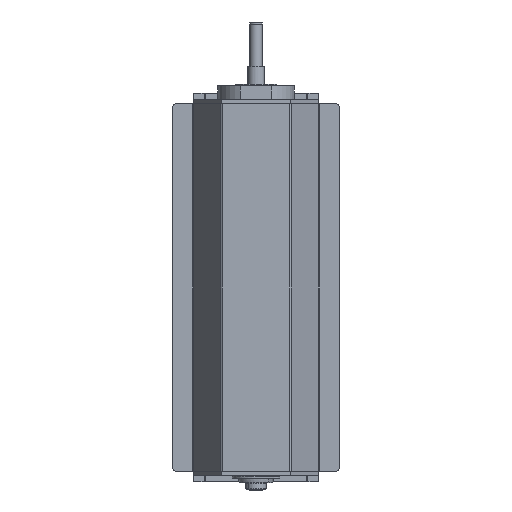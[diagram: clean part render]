
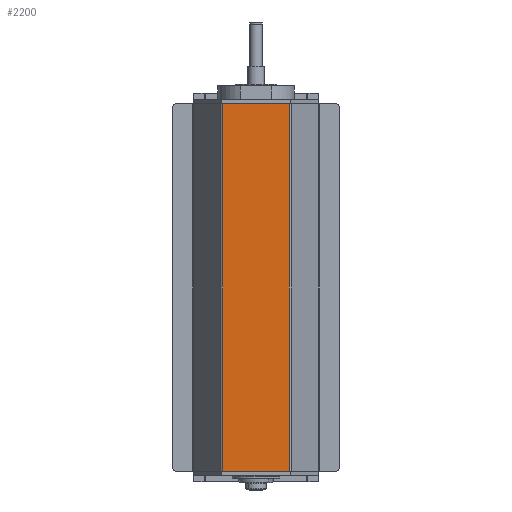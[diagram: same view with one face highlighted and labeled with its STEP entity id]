
A CAD part, front view. The second image highlights one B-rep face of the part: STEP entity #2200.
In plain terms, the highlighted planar face has unit normal (0, -1, 0).
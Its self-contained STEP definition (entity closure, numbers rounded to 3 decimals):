
#1152 = DIRECTION ( 'NONE',  ( -1., 0., 0. ) ) ;
#1249 = DIRECTION ( 'NONE',  ( 0., 1., 0. ) ) ;
#1371 = VECTOR ( 'NONE', #1152, 1000. ) ;
#1614 = CARTESIAN_POINT ( 'NONE',  ( 48.268, 0., -265.5 ) ) ;
#1652 = VECTOR ( 'NONE', #19371, 1000. ) ;
#1797 = FACE_OUTER_BOUND ( 'NONE', #12737, .T. ) ;
#1828 = DIRECTION ( 'NONE',  ( 0., 0., -1. ) ) ;
#2200 = ADVANCED_FACE ( 'NONE', ( #1797 ), #2625, .F. ) ;
#2559 = ORIENTED_EDGE ( 'NONE', *, *, #12803, .T. ) ;
#2625 = PLANE ( 'NONE',  #6814 ) ;
#3284 = ORIENTED_EDGE ( 'NONE', *, *, #11191, .T. ) ;
#3681 = VERTEX_POINT ( 'NONE', #12483 ) ;
#3829 = CARTESIAN_POINT ( 'NONE',  ( -50., 0., 265.5 ) ) ;
#4420 = VERTEX_POINT ( 'NONE', #12834 ) ;
#6033 = DIRECTION ( 'NONE',  ( -1., 0., 0. ) ) ;
#6653 = VECTOR ( 'NONE', #1828, 1000. ) ;
#6804 = VERTEX_POINT ( 'NONE', #11019 ) ;
#6814 = AXIS2_PLACEMENT_3D ( 'NONE', #10823, #1249, #6033 ) ;
#6922 = CARTESIAN_POINT ( 'NONE',  ( 48.268, 0., 554.779 ) ) ;
#8235 = DIRECTION ( 'NONE',  ( 0., 0., -1. ) ) ;
#8618 = LINE ( 'NONE', #6922, #16344 ) ;
#9415 = VERTEX_POINT ( 'NONE', #1614 ) ;
#10014 = EDGE_CURVE ( 'NONE', #4420, #9415, #14343, .T. ) ;
#10823 = CARTESIAN_POINT ( 'NONE',  ( -50., 0., 554.779 ) ) ;
#11019 = CARTESIAN_POINT ( 'NONE',  ( -48.268, 0., 265.5 ) ) ;
#11191 = EDGE_CURVE ( 'NONE', #3681, #6804, #17544, .T. ) ;
#11264 = CARTESIAN_POINT ( 'NONE',  ( -48.268, 0., 554.779 ) ) ;
#12483 = CARTESIAN_POINT ( 'NONE',  ( 48.268, 0., 265.5 ) ) ;
#12737 = EDGE_LOOP ( 'NONE', ( #3284, #2559, #13526, #15346 ) ) ;
#12803 = EDGE_CURVE ( 'NONE', #6804, #4420, #18344, .T. ) ;
#12834 = CARTESIAN_POINT ( 'NONE',  ( -48.268, 0., -265.5 ) ) ;
#13093 = EDGE_CURVE ( 'NONE', #3681, #9415, #8618, .T. ) ;
#13526 = ORIENTED_EDGE ( 'NONE', *, *, #10014, .T. ) ;
#14343 = LINE ( 'NONE', #17635, #1652 ) ;
#15346 = ORIENTED_EDGE ( 'NONE', *, *, #13093, .F. ) ;
#16344 = VECTOR ( 'NONE', #8235, 1000. ) ;
#17544 = LINE ( 'NONE', #3829, #1371 ) ;
#17635 = CARTESIAN_POINT ( 'NONE',  ( -50., 0., -265.5 ) ) ;
#18344 = LINE ( 'NONE', #11264, #6653 ) ;
#19371 = DIRECTION ( 'NONE',  ( 1., 0., 0. ) ) ;
